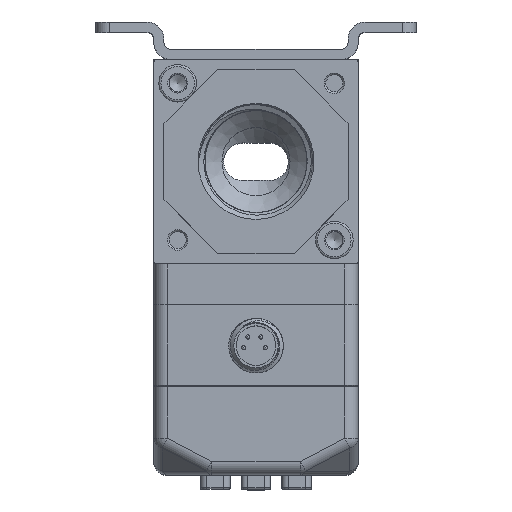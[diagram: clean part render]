
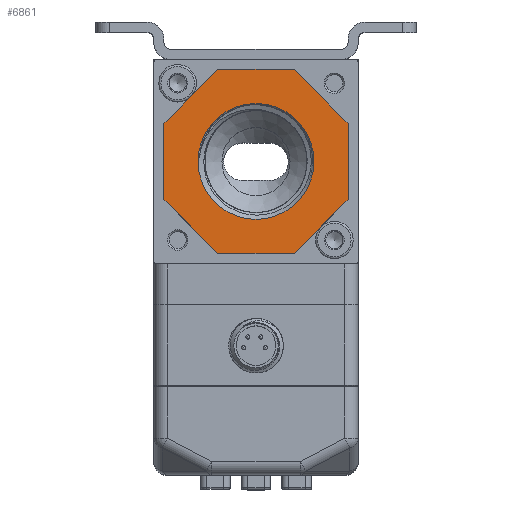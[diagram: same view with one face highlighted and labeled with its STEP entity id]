
A CAD part, top view. The second image highlights one B-rep face of the part: STEP entity #6861.
In plain terms, the highlighted planar face has unit normal (0, 0, 1).
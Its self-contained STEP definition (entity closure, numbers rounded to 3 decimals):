
#5023=FACE_BOUND('',#10852,.T.);
#5024=FACE_BOUND('',#10853,.T.);
#5818=CIRCLE('',#32702,8.5);
#6861=ADVANCED_FACE('',(#5023,#5024),#8353,.T.);
#8353=PLANE('',#32703);
#10852=EDGE_LOOP('',(#14623));
#10853=EDGE_LOOP('',(#14624,#14625,#14626,#14627,#14628,#14629,#14630,#14631));
#14623=ORIENTED_EDGE('',*,*,#23986,.T.);
#14624=ORIENTED_EDGE('',*,*,#23987,.T.);
#14625=ORIENTED_EDGE('',*,*,#23988,.T.);
#14626=ORIENTED_EDGE('',*,*,#23989,.T.);
#14627=ORIENTED_EDGE('',*,*,#23990,.T.);
#14628=ORIENTED_EDGE('',*,*,#23991,.T.);
#14629=ORIENTED_EDGE('',*,*,#23992,.T.);
#14630=ORIENTED_EDGE('',*,*,#23993,.T.);
#14631=ORIENTED_EDGE('',*,*,#23994,.T.);
#20984=VERTEX_POINT('',#45220);
#20985=VERTEX_POINT('',#45222);
#20986=VERTEX_POINT('',#45223);
#20987=VERTEX_POINT('',#45225);
#20988=VERTEX_POINT('',#45227);
#20989=VERTEX_POINT('',#45229);
#20990=VERTEX_POINT('',#45231);
#20991=VERTEX_POINT('',#45233);
#20992=VERTEX_POINT('',#45235);
#23986=EDGE_CURVE('',#20984,#20984,#5818,.T.);
#23987=EDGE_CURVE('',#20985,#20986,#27566,.T.);
#23988=EDGE_CURVE('',#20986,#20987,#27567,.T.);
#23989=EDGE_CURVE('',#20987,#20988,#27568,.T.);
#23990=EDGE_CURVE('',#20988,#20989,#27569,.T.);
#23991=EDGE_CURVE('',#20989,#20990,#27570,.T.);
#23992=EDGE_CURVE('',#20990,#20991,#27571,.T.);
#23993=EDGE_CURVE('',#20991,#20992,#27572,.T.);
#23994=EDGE_CURVE('',#20992,#20985,#27573,.T.);
#27566=LINE('',#45221,#30141);
#27567=LINE('',#45224,#30142);
#27568=LINE('',#45226,#30143);
#27569=LINE('',#45228,#30144);
#27570=LINE('',#45230,#30145);
#27571=LINE('',#45232,#30146);
#27572=LINE('',#45234,#30147);
#27573=LINE('',#45236,#30148);
#30141=VECTOR('',#36414,1.);
#30142=VECTOR('',#36415,1.);
#30143=VECTOR('',#36416,1.);
#30144=VECTOR('',#36417,1.);
#30145=VECTOR('',#36418,1.);
#30146=VECTOR('',#36419,1.);
#30147=VECTOR('',#36420,1.);
#30148=VECTOR('',#36421,1.);
#32702=AXIS2_PLACEMENT_3D('',#45219,#36412,#36413);
#32703=AXIS2_PLACEMENT_3D('',#45237,#36422,#36423);
#36412=DIRECTION('',(0.,0.,-1.));
#36413=DIRECTION('',(1.,0.,0.));
#36414=DIRECTION('',(0.,-1.,0.));
#36415=DIRECTION('',(0.707,-0.707,0.));
#36416=DIRECTION('',(1.,0.,0.));
#36417=DIRECTION('',(0.707,0.707,0.));
#36418=DIRECTION('',(0.,1.,0.));
#36419=DIRECTION('',(-0.707,0.707,0.));
#36420=DIRECTION('',(-1.,0.,0.));
#36421=DIRECTION('',(-0.707,-0.707,0.));
#36422=DIRECTION('',(0.,0.,1.));
#36423=DIRECTION('',(-1.,0.,0.));
#45219=CARTESIAN_POINT('',(2.5,0.,52.));
#45220=CARTESIAN_POINT('',(11.,0.,52.));
#45221=CARTESIAN_POINT('',(-11.,5.592,52.));
#45222=CARTESIAN_POINT('',(-11.,5.592,52.));
#45223=CARTESIAN_POINT('',(-11.,-5.592,52.));
#45224=CARTESIAN_POINT('',(-11.,-5.592,52.));
#45225=CARTESIAN_POINT('',(-3.092,-13.5,52.));
#45226=CARTESIAN_POINT('',(-3.092,-13.5,52.));
#45227=CARTESIAN_POINT('',(8.092,-13.5,52.));
#45228=CARTESIAN_POINT('',(8.092,-13.5,52.));
#45229=CARTESIAN_POINT('',(16.,-5.592,52.));
#45230=CARTESIAN_POINT('',(16.,-5.592,52.));
#45231=CARTESIAN_POINT('',(16.,5.592,52.));
#45232=CARTESIAN_POINT('',(16.,5.592,52.));
#45233=CARTESIAN_POINT('',(8.092,13.5,52.));
#45234=CARTESIAN_POINT('',(8.092,13.5,52.));
#45235=CARTESIAN_POINT('',(-3.092,13.5,52.));
#45236=CARTESIAN_POINT('',(-3.092,13.5,52.));
#45237=CARTESIAN_POINT('',(0.,0.,52.));
